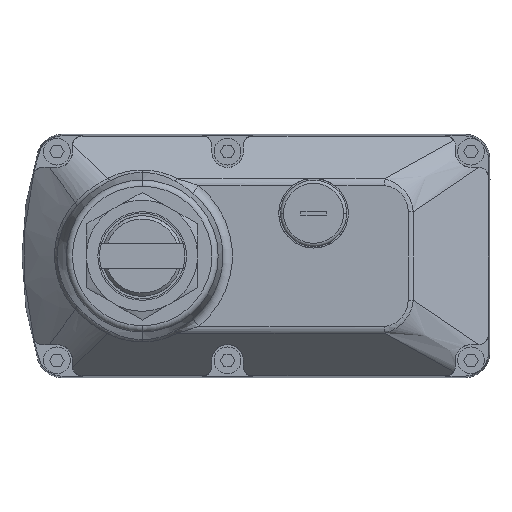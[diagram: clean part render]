
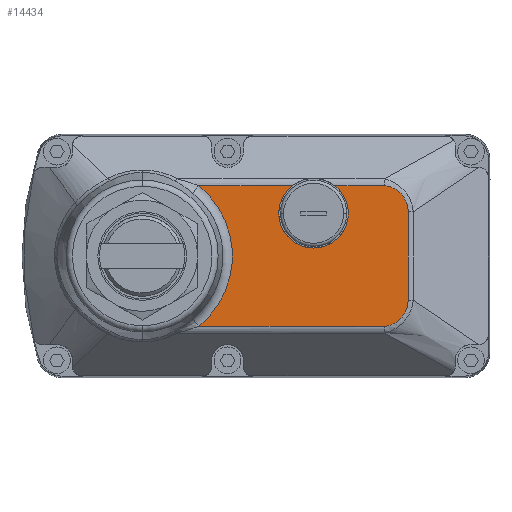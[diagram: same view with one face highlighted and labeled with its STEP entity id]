
A CAD part, left-side view. The second image highlights one B-rep face of the part: STEP entity #14434.
In plain terms, the highlighted planar face has unit normal (-1, 0, 0).
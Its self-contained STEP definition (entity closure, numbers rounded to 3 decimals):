
#1945=DIRECTION('',(0.,-1.,0.));
#1946=VECTOR('',#1945,58.701);
#1947=CARTESIAN_POINT('',(-51.,-17.899,
-22.2));
#1948=LINE('',#1947,#1946);
#1956=CARTESIAN_POINT('',(-51.,-54.21,13.5));
#1957=DIRECTION('',(-1.,0.,0.));
#1958=DIRECTION('',(0.,0.,-1.));
#1959=AXIS2_PLACEMENT_3D('',#1956,#1957,#1958);
#1961=CARTESIAN_POINT('',(-51.,-76.6,22.2));
#1962=CARTESIAN_POINT('',(-51.,-76.821,22.2));
#1963=CARTESIAN_POINT('',(-51.,-77.295,
22.166));
#1964=CARTESIAN_POINT('',(-51.,-78.264,
21.977));
#1965=CARTESIAN_POINT('',(-51.,-79.459,
21.534));
#1966=CARTESIAN_POINT('',(-51.,-80.779,
20.724));
#1967=CARTESIAN_POINT('',(-51.,-82.318,
19.327));
#1968=CARTESIAN_POINT('',(-51.,-83.719,
17.09));
#1969=CARTESIAN_POINT('',(-51.,-84.122,15.023));
#1970=CARTESIAN_POINT('',(-51.,-84.122,14.003));
#1972=DIRECTION('',(0.,0.,-1.));
#1973=VECTOR('',#1972,28.006);
#1974=CARTESIAN_POINT('',(-51.,-84.122,14.003));
#1975=LINE('',#1974,#1973);
#1976=CARTESIAN_POINT('',(-51.,-84.122,-14.003));
#1977=CARTESIAN_POINT('',(-51.,-84.122,-15.023));
#1978=CARTESIAN_POINT('',(-51.,-83.718,
-17.09));
#1979=CARTESIAN_POINT('',(-51.,-82.317,
-19.327));
#1980=CARTESIAN_POINT('',(-51.,-80.779,
-20.724));
#1981=CARTESIAN_POINT('',(-51.,-79.459,
-21.534));
#1982=CARTESIAN_POINT('',(-51.,-78.263,
-21.977));
#1983=CARTESIAN_POINT('',(-51.,-77.295,
-22.166));
#1984=CARTESIAN_POINT('',(-51.,-76.821,-22.2));
#1985=CARTESIAN_POINT('',(-51.,-76.6,-22.2));
#1987=CARTESIAN_POINT('',(-51.,0.,0.));
#1988=DIRECTION('',(-1.,0.,0.));
#1989=DIRECTION('',(0.,-0.628,-0.778));
#1990=AXIS2_PLACEMENT_3D('',#1987,#1988,#1989);
#1992=CARTESIAN_POINT('',(-51.,-54.21,13.5));
#1993=DIRECTION('',(-1.,0.,0.));
#1994=DIRECTION('',(0.,0.612,0.791));
#1995=AXIS2_PLACEMENT_3D('',#1992,#1993,#1994);
#2014=DIRECTION('',(0.,1.,0.));
#2015=VECTOR('',#2014,29.581);
#2016=CARTESIAN_POINT('',(-51.,-47.479,22.2));
#2017=LINE('',#2016,#2015);
#2540=DIRECTION('',(0.,1.,0.));
#2541=VECTOR('',#2540,15.659);
#2542=CARTESIAN_POINT('',(-51.,-76.6,22.2));
#2543=LINE('',#2542,#2541);
#7290=CARTESIAN_POINT('',(-51.,-84.122,-14.003));
#7291=VERTEX_POINT('',#7290);
#7292=CARTESIAN_POINT('',(-51.,-54.21,2.5));
#7293=CARTESIAN_POINT('',(-51.,-60.941,22.2));
#7294=VERTEX_POINT('',#7292);
#7295=VERTEX_POINT('',#7293);
#7296=CARTESIAN_POINT('',(-51.,-76.6,22.2));
#7297=VERTEX_POINT('',#7296);
#7298=VERTEX_POINT('',#1970);
#7299=VERTEX_POINT('',#1985);
#7300=CARTESIAN_POINT('',(-51.,-17.899,
-22.2));
#7301=VERTEX_POINT('',#7300);
#7302=CARTESIAN_POINT('',(-51.,-17.898,22.201));
#7303=VERTEX_POINT('',#7302);
#7304=CARTESIAN_POINT('',(-51.,-47.479,22.2));
#7305=VERTEX_POINT('',#7304);
#14410=CARTESIAN_POINT('',(-51.,-51.01,0.));
#14411=DIRECTION('',(1.,0.,0.));
#14412=DIRECTION('',(0.,0.,1.));
#14413=AXIS2_PLACEMENT_3D('',#14410,#14411,#14412);
#14414=PLANE('',#14413);
#14416=ORIENTED_EDGE('',*,*,#14415,.T.);
#14418=ORIENTED_EDGE('',*,*,#14417,.F.);
#14420=ORIENTED_EDGE('',*,*,#14419,.T.);
#14422=ORIENTED_EDGE('',*,*,#14421,.T.);
#14424=ORIENTED_EDGE('',*,*,#14423,.T.);
#14425=ORIENTED_EDGE('',*,*,#14400,.F.);
#14427=ORIENTED_EDGE('',*,*,#14426,.T.);
#14429=ORIENTED_EDGE('',*,*,#14428,.F.);
#14431=ORIENTED_EDGE('',*,*,#14430,.T.);
#14432=EDGE_LOOP('',(#14416,#14418,#14420,#14422,#14424,#14425,#14427,#14429,
#14431));
#14433=FACE_OUTER_BOUND('',#14432,.F.);
#14434=ADVANCED_FACE('',(#14433),#14414,.F.);
#1960=CIRCLE('',#1959,11.);
#1971=B_SPLINE_CURVE_WITH_KNOTS('',3,(#1961,#1962,#1963,#1964,#1965,#1966,#1967,
#1968,#1969,#1970),.UNSPECIFIED.,.F.,.F.,(4,1,1,1,1,1,1,4),(0.,0.063,
0.125,0.25,0.375,0.5,0.75,1.),.UNSPECIFIED.);
#1986=B_SPLINE_CURVE_WITH_KNOTS('',3,(#1976,#1977,#1978,#1979,#1980,#1981,#1982,
#1983,#1984,#1985),.UNSPECIFIED.,.F.,.F.,(4,1,1,1,1,1,1,4),(0.,0.25,0.5,
0.625,0.75,0.875,0.938,1.),.UNSPECIFIED.);
#1991=CIRCLE('',#1990,28.517);
#1996=CIRCLE('',#1995,11.);
#14400=EDGE_CURVE('',#7301,#7299,#1948,.T.);
#14415=EDGE_CURVE('',#7294,#7295,#1960,.T.);
#14417=EDGE_CURVE('',#7297,#7295,#2543,.T.);
#14419=EDGE_CURVE('',#7297,#7298,#1971,.T.);
#14421=EDGE_CURVE('',#7298,#7291,#1975,.T.);
#14423=EDGE_CURVE('',#7291,#7299,#1986,.T.);
#14426=EDGE_CURVE('',#7301,#7303,#1991,.T.);
#14428=EDGE_CURVE('',#7305,#7303,#2017,.T.);
#14430=EDGE_CURVE('',#7305,#7294,#1996,.T.);
